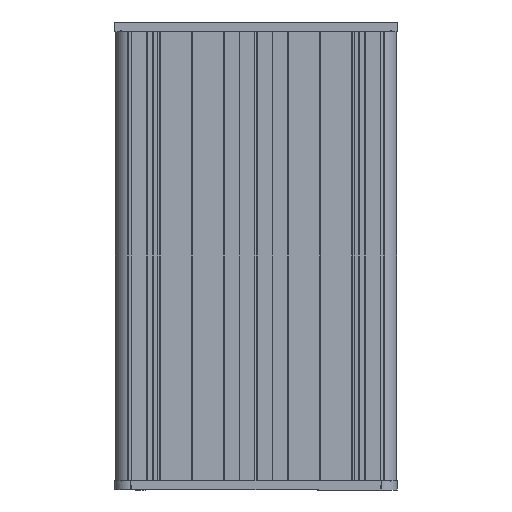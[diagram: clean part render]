
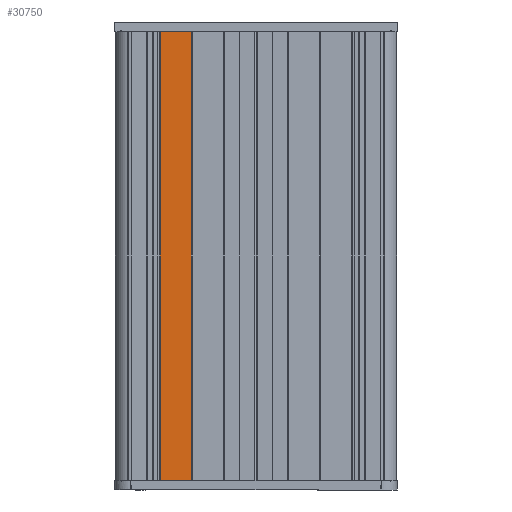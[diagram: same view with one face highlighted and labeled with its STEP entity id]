
A CAD part, left-side view. The second image highlights one B-rep face of the part: STEP entity #30750.
In plain terms, the highlighted planar face has unit normal (-1, 0, 0) as drawn and (0, -1, 0) by its records, which use the part's own axes.
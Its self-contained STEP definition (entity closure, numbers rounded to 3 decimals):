
#448 = ORIENTED_EDGE ( 'NONE', *, *, #6899, .F. ) ;
#684 = CARTESIAN_POINT ( 'NONE',  ( 8.975, -5., -70. ) ) ;
#1875 = VERTEX_POINT ( 'NONE', #29644 ) ;
#4713 = EDGE_CURVE ( 'NONE', #10247, #16663, #23318, .T. ) ;
#5485 = FACE_OUTER_BOUND ( 'NONE', #20548, .T. ) ;
#6899 = EDGE_CURVE ( 'NONE', #29204, #1875, #13519, .T. ) ;
#7964 = LINE ( 'NONE', #28879, #17639 ) ;
#10247 = VERTEX_POINT ( 'NONE', #20739 ) ;
#10444 = PLANE ( 'NONE',  #14416 ) ;
#11362 = LINE ( 'NONE', #26648, #18833 ) ;
#11456 = ORIENTED_EDGE ( 'NONE', *, *, #21454, .T. ) ;
#13349 = CARTESIAN_POINT ( 'NONE',  ( 18.725, -5., -70. ) ) ;
#13519 = LINE ( 'NONE', #13349, #23427 ) ;
#14416 = AXIS2_PLACEMENT_3D ( 'NONE', #15361, #28991, #15859 ) ;
#15361 = CARTESIAN_POINT ( 'NONE',  ( 8., -5., -70. ) ) ;
#15859 = DIRECTION ( 'NONE',  ( 1., 0., 0. ) ) ;
#15928 = DIRECTION ( 'NONE',  ( 1., 0., 0. ) ) ;
#16663 = VERTEX_POINT ( 'NONE', #16805 ) ;
#16805 = CARTESIAN_POINT ( 'NONE',  ( 8.975, -5., 70. ) ) ;
#17639 = VECTOR ( 'NONE', #15928, 1000. ) ;
#18833 = VECTOR ( 'NONE', #18971, 1000. ) ;
#18971 = DIRECTION ( 'NONE',  ( 1., 0., 0. ) ) ;
#20548 = EDGE_LOOP ( 'NONE', ( #23611, #11456, #448, #28302 ) ) ;
#20739 = CARTESIAN_POINT ( 'NONE',  ( 8.975, -5., -70. ) ) ;
#21454 = EDGE_CURVE ( 'NONE', #10247, #1875, #11362, .T. ) ;
#23225 = EDGE_CURVE ( 'NONE', #16663, #29204, #7964, .T. ) ;
#23318 = LINE ( 'NONE', #684, #28104 ) ;
#23427 = VECTOR ( 'NONE', #26614, 1000. ) ;
#23611 = ORIENTED_EDGE ( 'NONE', *, *, #4713, .F. ) ;
#24250 = CARTESIAN_POINT ( 'NONE',  ( 18.725, -5., 70. ) ) ;
#25901 = DIRECTION ( 'NONE',  ( 0., 0., 1. ) ) ;
#26614 = DIRECTION ( 'NONE',  ( 0., 0., -1. ) ) ;
#26648 = CARTESIAN_POINT ( 'NONE',  ( 8., -5., -70. ) ) ;
#28104 = VECTOR ( 'NONE', #25901, 1000. ) ;
#28302 = ORIENTED_EDGE ( 'NONE', *, *, #23225, .F. ) ;
#28879 = CARTESIAN_POINT ( 'NONE',  ( 8., -5., 70. ) ) ;
#28991 = DIRECTION ( 'NONE',  ( 0., -1., 0. ) ) ;
#29204 = VERTEX_POINT ( 'NONE', #24250 ) ;
#29644 = CARTESIAN_POINT ( 'NONE',  ( 18.725, -5., -70. ) ) ;
#30750 = ADVANCED_FACE ( 'NONE', ( #5485 ), #10444, .T. ) ;
